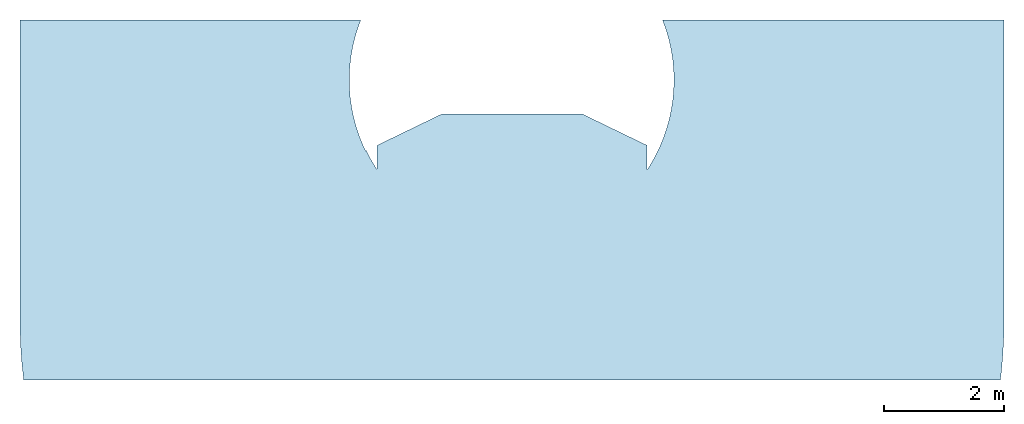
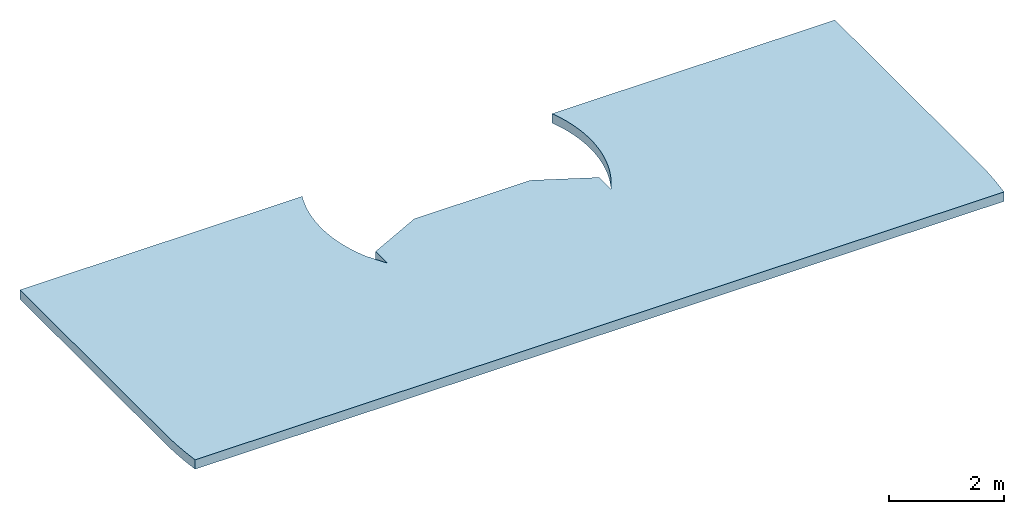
# One storey: 1 slab.
"""IFC4 building model written with IfcOpenShell, lengths in millimetres."""

import ifcopenshell
import ifcopenshell.guid

model = None  # the IFC model being written
_history = None  # IfcOwnerHistory: only IFC2X3 demands one
_inside = {}  # id of a spatial element -> (the spatial element, [elements in it])
_under = {}  # id of a project, library or spatial element -> (it, [spatial elements below it])
_declared = {}  # id of a project -> (the project, [libraries it declares])
_typed = {}  # id of a type object -> (the type object, [elements of that type])
_made_of = {}  # id of a material, layer set ... -> (it, [elements and type objects made of it])


def new_model(schema):
    """Start an empty IFC model of exactly this schema.

    Asked for "IFC4X3", IfcOpenShell would pick the latest addendum, in which some entities
    have other attributes; the version numbers below select the first issue.
    IFC2X3 requires an IfcOwnerHistory on every rooted entity: one is made here for all.
    """
    global model, _history
    if schema == "IFC4X3":
        model = ifcopenshell.file(schema_version=(4, 3, 0, 0))
    else:
        model = ifcopenshell.file(schema=schema)
    _inside.clear()
    _under.clear()
    _declared.clear()
    _typed.clear()
    _made_of.clear()
    _history = None
    if model.schema == "IFC2X3":
        org = make("IfcOrganization", Name="unknown")
        user = make(
            "IfcPersonAndOrganization",
            ThePerson=make("IfcPerson", FamilyName="unknown"),
            TheOrganization=org,
        )
        app = make(
            "IfcApplication",
            ApplicationDeveloper=org,
            Version="unknown",
            ApplicationFullName="unknown",
            ApplicationIdentifier="unknown",
        )
        _history = make(
            "IfcOwnerHistory",
            OwningUser=user,
            OwningApplication=app,
            ChangeAction="ADDED",
            CreationDate=0,
        )
    return model


def make(cls, **values):
    """One entity of the class cls with the attributes given. An attribute that is None is left unset."""
    return model.create_entity(
        cls, **{name: value for name, value in values.items() if value is not None}
    )


def entity(cls, *values):
    """Any entity or typed value of the class cls, its attributes in the order of the schema. None: left unset."""
    e = model.create_entity(cls)
    for i, value in enumerate(values):
        if value is not None:
            e[i] = value
    return e


def rooted(cls, **values):
    """An entity with a GlobalId (a new one), such as an element, a storey or a relation."""
    return make(cls, GlobalId=ifcopenshell.guid.new(), OwnerHistory=_history, **values)


def si_unit(unit_type, name, prefix=None):
    """IfcSIUnit, for example si_unit("LENGTHUNIT", "METRE", prefix="MILLI")."""
    return make("IfcSIUnit", UnitType=unit_type, Prefix=prefix, Name=name)


def converted_unit(unit_type, name, factor, base, dimensions=None, offset=None):
    """IfcConversionBasedUnit, such as the inch: factor (a typed value) times the base unit."""
    return make(
        "IfcConversionBasedUnit"
        if offset is None
        else "IfcConversionBasedUnitWithOffset",
        ConversionOffset=offset,
        Dimensions=None
        if dimensions is None
        else entity("IfcDimensionalExponents", *dimensions),
        UnitType=unit_type,
        Name=name,
        ConversionFactor=make(
            "IfcMeasureWithUnit", ValueComponent=factor, UnitComponent=base
        ),
    )


def derived_unit(unit_type, elements):
    """IfcDerivedUnit: a product of units, each with its exponent."""
    return make(
        "IfcDerivedUnit",
        Elements=[
            make("IfcDerivedUnitElement", Unit=unit, Exponent=power)
            for unit, power in elements
        ],
        UnitType=unit_type,
    )


def assignment(units):
    """IfcUnitAssignment: the units of a project."""
    return None if units is None else make("IfcUnitAssignment", Units=units)


def point(xyz):
    """IfcCartesianPoint."""
    return None if xyz is None else make("IfcCartesianPoint", Coordinates=xyz)


def direction(xyz):
    """IfcDirection."""
    return None if xyz is None else make("IfcDirection", DirectionRatios=xyz)


def frame(location, z_axis=None, x_axis=None):
    """IfcAxis2Placement3D, a coordinate frame: its origin and axes. An axis left out is left unset."""
    return make(
        "IfcAxis2Placement3D",
        Location=point(location),
        Axis=direction(z_axis),
        RefDirection=direction(x_axis),
    )


def origin_with_axes():
    """The frame at (0, 0, 0) with the z axis (0, 0, 1) and the x axis (1, 0, 0) written out."""
    return frame((0.0, 0.0, 0.0), z_axis=(0.0, 0.0, 1.0), x_axis=(1.0, 0.0, 0.0))


def place(relative_to, where):
    """IfcLocalPlacement: puts the frame where relative to a parent placement (None: the world)."""
    return make(
        "IfcLocalPlacement", PlacementRelTo=relative_to, RelativePlacement=where
    )


def context(
    kind, dimensions, precision=None, world=None, true_north=None, identifier=None
):
    """IfcGeometricRepresentationContext, for example the 3D "Model" context."""
    return make(
        "IfcGeometricRepresentationContext",
        ContextIdentifier=identifier,
        ContextType=kind,
        CoordinateSpaceDimension=dimensions,
        Precision=precision,
        WorldCoordinateSystem=world,
        TrueNorth=true_north,
    )


def subcontext(parent, identifier, kind, view, scale=None):
    """IfcGeometricRepresentationSubContext, for example "Body" below "Model"."""
    return make(
        "IfcGeometricRepresentationSubContext",
        ContextIdentifier=identifier,
        ContextType=kind,
        ParentContext=parent,
        TargetScale=scale,
        TargetView=view,
    )


def project(units=None, contexts=None):
    """IfcProject with its units and contexts."""
    return rooted(
        "IfcProject",
        Name="project",
        RepresentationContexts=contexts,
        UnitsInContext=assignment(units),
    )


def spatial(cls, under=None, at=None, **own):
    """A site, building, storey or space (cls), placed at a placement, below another one or the project."""
    s = rooted(cls, ObjectPlacement=at, **own)
    if under is not None:
        _under.setdefault(under.id(), (under, []))[1].append(s)
    return s


def point_list(points):
    """IfcCartesianPointList2D or 3D."""
    cls = (
        "IfcCartesianPointList2D" if len(points[0]) == 2 else "IfcCartesianPointList3D"
    )
    return make(cls, CoordList=points)


def polygons(points, faces, closed=None, point_numbers=None):
    """IfcPolygonalFaceSet: a face is its outer loop, then its inner loops; points numbered from 1."""
    made = []
    for loops in faces:
        if len(loops) == 1:
            made.append(make("IfcIndexedPolygonalFace", CoordIndex=loops[0]))
        else:
            made.append(
                make(
                    "IfcIndexedPolygonalFaceWithVoids",
                    CoordIndex=loops[0],
                    InnerCoordIndices=loops[1:],
                )
            )
    return make(
        "IfcPolygonalFaceSet",
        Coordinates=point_list(points),
        Closed=closed,
        Faces=made,
        PnIndex=point_numbers,
    )


def shape(context_of_items, identifier, shape_type, items):
    """IfcShapeRepresentation: the items that make up one representation, for example the "Body"."""
    return make(
        "IfcShapeRepresentation",
        ContextOfItems=context_of_items,
        RepresentationIdentifier=identifier,
        RepresentationType=shape_type,
        Items=items,
    )


def material(Name=None, Category=None):
    """IfcMaterial."""
    return make("IfcMaterial", Name=Name, Category=Category)


def made_of(thing, what):
    """Note that an element or type object is made of a material, layer set ...; save() writes the relation."""
    if what is not None:
        _made_of.setdefault(what.id(), (what, []))[1].append(thing)
    return thing


def type_object(cls, material=None, **own):
    """A type object (cls), such as IfcWallType, which elements share."""
    return made_of(rooted(cls, **own), material)


def element(
    cls,
    number,
    at=None,
    inside=None,
    cuts=None,
    type_object=None,
    material=None,
    context=None,
    identifier="Body",
    shape_type=None,
    held_by="IfcProductDefinitionShape",
    body=None,
    shapes=None,
    **own,
):
    """One element of the class cls, such as IfcWall. Its Tag is "e" and its number.

    at: its placement. inside: the storey or other place that contains it. cuts: it is an
    opening in that element (IfcRelVoidsElement). A single representation is given by context,
    identifier, shape_type and body (its items); several are given by shapes. held_by: the class
    of the entity that holds the representations. save() writes the other relations.
    """
    e = rooted(cls, Tag="e%d" % number, ObjectPlacement=at, **own)
    if body is not None:
        shapes = [shape(context, identifier, shape_type, body)]
    if shapes is not None:
        e.Representation = make(held_by, Representations=shapes)
    if inside is not None:
        _inside.setdefault(inside.id(), (inside, []))[1].append(e)
    if cuts is not None:
        rooted(
            "IfcRelVoidsElement", RelatingBuildingElement=cuts, RelatedOpeningElement=e
        )
    if type_object is not None:
        _typed.setdefault(type_object.id(), (type_object, []))[1].append(e)
    return made_of(e, material)


def aggregate(whole, parts):
    """IfcRelAggregates: a whole, such as a stair, and the parts it consists of."""
    return rooted("IfcRelAggregates", RelatingObject=whole, RelatedObjects=parts)


def save(model, path):
    """Write the relations noted so far, then the file.

    IfcRelAggregates (storeys below a building ...), IfcRelContainedInSpatialStructure (elements
    in a storey), IfcRelDefinesByType, IfcRelAssociatesMaterial and IfcRelDeclares: one each for
    every whole, place, type object, material and project.
    """
    for whole, parts in _under.values():
        aggregate(whole, parts)
    for where, things in _inside.values():
        rooted(
            "IfcRelContainedInSpatialStructure",
            RelatedElements=things,
            RelatingStructure=where,
        )
    for kind, things in _typed.values():
        rooted("IfcRelDefinesByType", RelatedObjects=things, RelatingType=kind)
    for what, things in _made_of.values():
        rooted("IfcRelAssociatesMaterial", RelatedObjects=things, RelatingMaterial=what)
    for by, libraries in _declared.values():
        rooted("IfcRelDeclares", RelatingContext=by, RelatedDefinitions=libraries)
    model.write(path)


model = new_model("IFC4")

# Units and contexts
model_context = context("Model", 3, precision=0.01, world=origin_with_axes(), true_north=direction((0.0, 1.0)))
body_context = subcontext(model_context, "Body", "Model", "MODEL_VIEW")
ifc_project = project(units=[si_unit("LENGTHUNIT", "METRE", prefix="MILLI"), si_unit("AREAUNIT", "SQUARE_METRE"), si_unit("VOLUMEUNIT", "CUBIC_METRE"), converted_unit("PLANEANGLEUNIT", "DEGREE", entity("IfcPlaneAngleMeasure", 0.0174532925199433), si_unit("PLANEANGLEUNIT", "RADIAN"), dimensions=[0, 0, 0, 0, 0, 0, 0]), converted_unit("TIMEUNIT", "Year", entity("IfcTimeMeasure", 31557600.0), si_unit("TIMEUNIT", "SECOND"), dimensions=[0, 0, 1, 0, 0, 0, 0]), si_unit("MASSUNIT", "GRAM", prefix="KILO"), si_unit("THERMODYNAMICTEMPERATUREUNIT", "DEGREE_CELSIUS"), si_unit("LUMINOUSINTENSITYUNIT", "LUMEN"), si_unit("ENERGYUNIT", "JOULE", prefix="MEGA"), derived_unit("THERMALCONDUCTANCEUNIT", [(si_unit("POWERUNIT", "WATT"), 1), (si_unit("LENGTHUNIT", "METRE"), -1), (si_unit("THERMODYNAMICTEMPERATUREUNIT", "KELVIN"), -1)]), derived_unit("SPECIFICHEATCAPACITYUNIT", [(si_unit("ENERGYUNIT", "JOULE"), 1), (si_unit("MASSUNIT", "GRAM", prefix="KILO"), -1), (si_unit("THERMODYNAMICTEMPERATUREUNIT", "KELVIN"), -1)]), derived_unit("MASSDENSITYUNIT", [(si_unit("MASSUNIT", "GRAM", prefix="KILO"), 1), (si_unit("VOLUMEUNIT", "CUBIC_METRE"), -1)])], contexts=[model_context])

# Site, building, storey
site_placement = place(None, origin_with_axes())
site = spatial("IfcSite", under=ifc_project, at=site_placement, Name="Exteriér", CompositionType="ELEMENT")
building_placement = place(site_placement, origin_with_axes())
building = spatial("IfcBuilding", under=site, at=building_placement, Name="Univerzitní lezecké centrum", CompositionType="ELEMENT")
storey_placement = place(building_placement, frame((0.0, 0.0, 6400.0), z_axis=(0.0, 0.0, 1.0), x_axis=(1.0, 0.0, 0.0)))
storey = spatial("IfcBuildingStorey", under=building, at=storey_placement, Name="3.NP", CompositionType="ELEMENT", Elevation=6400.0)

# Slab
ifc_material = material(Name="Beton vyztužený stropy")
slab_type = type_object("IfcSlabType", Name="Beton vyztužený stropy 200", PredefinedType="FLOOR")
slab_placement = place(storey_placement, frame((-5751.148351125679, -300.0000005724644, -120.000000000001), z_axis=(0.0, 0.0, 1.0), x_axis=(1.0, 0.0, 0.0)))
element("IfcSlab", 1, at=slab_placement, inside=storey, type_object=slab_type, material=ifc_material, Name="D04", PredefinedType="FLOOR", context=body_context, shape_type="Tessellation", body=[
    polygons([(5760.992088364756, 2818.525332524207, 0.0), (5770.210920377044, 2822.989177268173, 0.0), (5770.210920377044, 2822.989177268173, -200.0000000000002), (5760.992088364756, 2818.525332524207, -200.0000000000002), (0.9999999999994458, 6.592226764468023e-08, 0.0), (0.0, 0.0, 0.0), (0.0, -143.9488661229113, 0.0), (10.10359417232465, -431.6692540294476, 0.0), (30.29833493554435, -718.8578274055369, 0.0), (61.1489392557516, -999.6127789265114, 0.0), (16340.85105751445, -999.6128085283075, 0.0), (16358.25290685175, -856.7365634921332, 0.0), (16383.00685831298, -569.938681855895, 0.0), (16397.6805658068, -282.4487423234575, 0.0), (16400.9999999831, 5.724823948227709e-07, 0.0), (16400.9999999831, 5000.000000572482, 0.0), (10708.98724078, 5000.000000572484, 0.0), (10775.86051483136, 4814.4263917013, 0.0), (10820.72449316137, 4654.068109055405, 0.0), (10855.72894506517, 4491.273011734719, 0.0), (10880.74365168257, 4326.646708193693, 0.0), (10895.67555666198, 4160.801619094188, 0.0), (10900.46911233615, 3994.354699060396, 0.0), (10895.10648636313, 3827.925141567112, 0.0), (10879.60762806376, 3662.132075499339, 0.0), (10854.03019420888, 3497.592261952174, 0.0), (10818.46933453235, 3334.917799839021, 0.0), (10773.05733776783, 3174.713848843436, 0.0), (10717.96313952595, 3017.57637818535, 0.0), (10653.39169384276, 2864.089949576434, 0.0), (10579.58321073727, 2714.825542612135, 0.0), (10496.8122626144, 2570.338430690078, 0.0), (10451.09951272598, 2500.752273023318, 0.0), (10451.09951272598, 2910.480756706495, 0.0), (9371.051746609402, 3433.449993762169, 0.0), (9337.627067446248, 3433.449993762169, 0.0), (9337.615207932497, 3433.426202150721, 0.0), (9225.880535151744, 3433.427387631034, 0.0), (7177.508935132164, 3433.449993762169, 0.0), (7030.948253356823, 3433.449993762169, 0.0), (5950.900487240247, 2910.480756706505, 0.0), (5950.904971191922, 2507.6621161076, 0.0), (5921.171167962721, 2551.149895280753, 0.0), (5837.084066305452, 2692.832226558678, 0.0), (5733.745502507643, 2873.242625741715, 0.0), (5667.249514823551, 3031.994103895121, 0.0), (5610.956046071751, 3194.643400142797, 0.0), (5565.091770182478, 3360.535583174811, 0.0), (5529.841366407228, 3529.002663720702, 0.0), (5505.346775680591, 3699.366284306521, 0.0), (5491.706629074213, 3870.940450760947, 0.0), (5488.975850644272, 4043.034294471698, 0.0), (5497.165436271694, 4214.954854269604, 0.0), (5516.242409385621, 4386.009866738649, 0.0), (5546.129953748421, 4555.510553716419, 0.0), (5586.70772276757, 4722.774395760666, 0.0), (5637.812324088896, 4887.12788041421, 0.0), (5680.934517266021, 5000.000000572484, 0.0), (0.999999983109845, 5000.000000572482, 0.0), (5837.084066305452, 2692.832226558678, -200.0000000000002), (10.10359417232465, -431.6692540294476, -200.0000000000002), (0.0, -143.9488661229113, -200.0000000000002), (0.0, 0.0, -200.0000000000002), (0.9999999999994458, 6.592226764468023e-08, -200.0000000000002), (0.999999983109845, 5000.000000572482, -200.0000000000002), (5680.934517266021, 5000.000000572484, -200.0000000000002), (5637.812324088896, 4887.12788041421, -200.0000000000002), (5586.70772276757, 4722.774395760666, -200.0000000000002), (5546.129953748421, 4555.510553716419, -200.0000000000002), (5516.242409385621, 4386.009866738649, -200.0000000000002), (5497.165436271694, 4214.954854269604, -200.0000000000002), (5488.975850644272, 4043.034294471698, -200.0000000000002), (5491.706629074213, 3870.940450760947, -200.0000000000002), (5505.346775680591, 3699.366284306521, -200.0000000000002), (5529.841366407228, 3529.002663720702, -200.0000000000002), (5565.091770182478, 3360.535583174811, -200.0000000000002), (5610.956046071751, 3194.643400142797, -200.0000000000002), (5667.249514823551, 3031.994103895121, -200.0000000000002), (5733.745502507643, 2873.242625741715, -200.0000000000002), (5921.171167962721, 2551.149895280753, -200.0000000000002), (5950.904971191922, 2507.6621161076, -200.0000000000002), (5950.900487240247, 2910.480756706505, -200.0000000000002), (7030.948253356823, 3433.449993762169, -200.0000000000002), (7177.508935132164, 3433.449993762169, -200.0000000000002), (9337.615207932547, 3433.426202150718, -200.0000000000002), (9337.627067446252, 3433.449993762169, -200.0000000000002), (9371.051746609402, 3433.449993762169, -200.0000000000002), (10451.09951272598, 2910.480756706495, -200.0000000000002), (10451.09951272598, 2500.752273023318, -200.0000000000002), (10496.8122626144, 2570.338430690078, -200.0000000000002), (10579.58321073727, 2714.825542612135, -200.0000000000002), (10653.39169384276, 2864.089949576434, -200.0000000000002), (10717.96313952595, 3017.57637818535, -200.0000000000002), (10773.05733776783, 3174.713848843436, -200.0000000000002), (10818.46933453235, 3334.917799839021, -200.0000000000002), (10854.03019420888, 3497.592261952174, -200.0000000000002), (10879.60762806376, 3662.132075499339, -200.0000000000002), (10895.10648636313, 3827.925141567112, -200.0000000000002), (10900.46911233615, 3994.354699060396, -200.0000000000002), (10895.67555666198, 4160.801619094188, -200.0000000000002), (10880.74365168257, 4326.646708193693, -200.0000000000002), (10855.72894506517, 4491.273011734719, -200.0000000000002), (10820.72449316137, 4654.068109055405, -200.0000000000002), (10775.86051483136, 4814.4263917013, -200.0000000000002), (10708.98724078, 5000.000000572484, -200.0000000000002), (16400.9999999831, 5000.000000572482, -200.0000000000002), (16400.9999999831, 5.724823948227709e-07, -200.0000000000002), (16397.6805658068, -282.4487423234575, -200.0000000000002), (16383.00685831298, -569.938681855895, -200.0000000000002), (16358.25290685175, -856.7365634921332, -200.0000000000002), (16340.85105751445, -999.6128085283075, -200.0000000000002), (61.1489392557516, -999.6127789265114, -200.0000000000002), (30.29833493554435, -718.8578274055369, -200.0000000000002)], [[[1, 2, 3, 4]], [[5, 6, 7, 8, 9, 10, 11, 12, 13, 14, 15, 16, 17, 18, 19, 20, 21, 22, 23, 24, 25, 26, 27, 28, 29, 30, 31, 32, 33, 34, 35, 36, 37, 38, 39, 40, 41, 42, 43, 44, 2, 1, 45, 46, 47, 48, 49, 50, 51, 52, 53, 54, 55, 56, 57, 58, 59]], [[2, 44, 60, 3]], [[61, 62, 63, 64, 65, 66, 67, 68, 69, 70, 71, 72, 73, 74, 75, 76, 77, 78, 79, 4, 3, 60, 80, 81, 82, 83, 84, 85, 86, 87, 88, 89, 90, 91, 92, 93, 94, 95, 96, 97, 98, 99, 100, 101, 102, 103, 104, 105, 106, 107, 108, 109, 110, 111, 112, 113]], [[1, 4, 79, 45]], [[5, 64, 63, 6]], [[6, 63, 62, 7]], [[7, 62, 61, 8]], [[8, 61, 113, 9]], [[9, 113, 112, 10]], [[11, 10, 112, 111]], [[11, 111, 110, 12]], [[12, 110, 109, 13]], [[13, 109, 108, 14]], [[14, 108, 107, 15]], [[16, 15, 107, 106]], [[106, 105, 17, 16]], [[18, 17, 105, 104]], [[18, 104, 103, 19]], [[19, 103, 102, 20]], [[21, 20, 102, 101]], [[21, 101, 100, 22]], [[22, 100, 99, 23]], [[23, 99, 98, 24]], [[98, 97, 25, 24]], [[25, 97, 96, 26]], [[26, 96, 95, 27]], [[27, 95, 94, 28]], [[94, 93, 29, 28]], [[29, 93, 92, 30]], [[30, 92, 91, 31]], [[31, 91, 90, 32]], [[32, 90, 89, 33]], [[33, 89, 88, 34]], [[35, 34, 88, 87]], [[35, 87, 86, 36]], [[36, 86, 85, 37]], [[85, 84, 39, 38, 37]], [[84, 83, 40, 39]], [[40, 83, 82, 41]], [[82, 81, 42, 41]], [[42, 81, 80, 43]], [[43, 80, 60, 44]], [[45, 79, 78, 46]], [[78, 77, 47, 46]], [[47, 77, 76, 48]], [[48, 76, 75, 49]], [[49, 75, 74, 50]], [[50, 74, 73, 51]], [[51, 73, 72, 52]], [[53, 52, 72, 71]], [[53, 71, 70, 54]], [[54, 70, 69, 55]], [[55, 69, 68, 56]], [[56, 68, 67, 57]], [[58, 57, 67, 66]], [[66, 65, 59, 58]], [[59, 65, 64, 5]]], closed=True),
])

save(model, "model.ifc")
